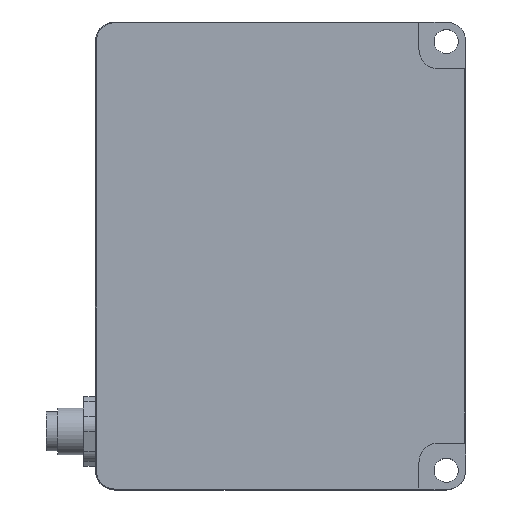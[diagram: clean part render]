
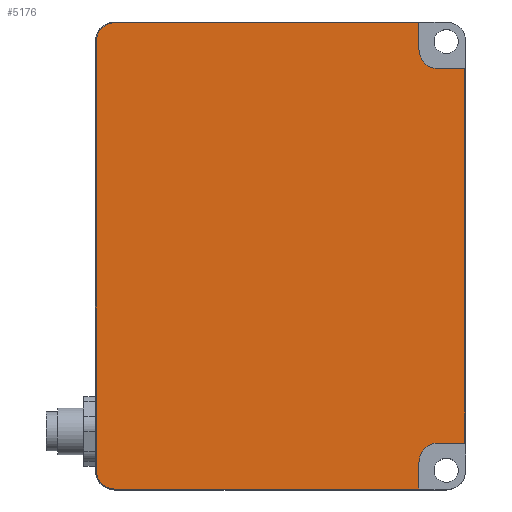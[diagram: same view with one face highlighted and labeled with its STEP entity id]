
A CAD part, top view. The second image highlights one B-rep face of the part: STEP entity #5176.
In plain terms, the highlighted planar face has unit normal (0, 0, 1) as drawn and (0, 0, -1) by its records, which use the part's own axes.
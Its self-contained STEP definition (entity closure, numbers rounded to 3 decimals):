
#5069=CARTESIAN_POINT('',(41.062,-59.309,0.0));
#5070=DIRECTION('',(0.0,0.0,1.0));
#5071=DIRECTION('',(1.0,0.0,0.0));
#5072=AXIS2_PLACEMENT_3D('',#5069,#5070,#5071);
#5073=PLANE('',#5072);
#5074=CARTESIAN_POINT('',(88.362,-107.309,0.0));
#5075=VERTEX_POINT('',#5074);
#5076=CARTESIAN_POINT('',(88.362,-11.309,0.0));
#5077=VERTEX_POINT('',#5076);
#5078=CARTESIAN_POINT('',(88.362,-107.309,0.0));
#5079=DIRECTION('',(0.0,1.0,0.0));
#5080=VECTOR('',#5079,96.0);
#5081=LINE('',#5078,#5080);
#5082=EDGE_CURVE('',#5075,#5077,#5081,.T.);
#5083=ORIENTED_EDGE('',*,*,#5082,.F.);
#5084=CARTESIAN_POINT('',(81.562,-107.309,0.0));
#5085=VERTEX_POINT('',#5084);
#5086=CARTESIAN_POINT('',(88.362,-107.309,0.0));
#5087=DIRECTION('',(-1.0,0.0,0.0));
#5088=VECTOR('',#5087,6.8);
#5089=LINE('',#5086,#5088);
#5090=EDGE_CURVE('',#5075,#5085,#5089,.T.);
#5091=ORIENTED_EDGE('',*,*,#5090,.T.);
#5092=CARTESIAN_POINT('',(76.562,-112.309,0.0));
#5093=VERTEX_POINT('',#5092);
#5094=CARTESIAN_POINT('',(81.562,-112.309,0.0));
#5095=DIRECTION('',(0.0,0.0,1.0));
#5096=DIRECTION('',(1.0,0.0,0.0));
#5097=AXIS2_PLACEMENT_3D('',#5094,#5095,#5096);
#5098=CIRCLE('',#5097,5.0);
#5099=EDGE_CURVE('',#5085,#5093,#5098,.T.);
#5100=ORIENTED_EDGE('',*,*,#5099,.T.);
#5101=CARTESIAN_POINT('',(76.562,-119.109,0.0));
#5102=VERTEX_POINT('',#5101);
#5103=CARTESIAN_POINT('',(76.562,-112.309,0.0));
#5104=DIRECTION('',(0.0,-1.0,0.0));
#5105=VECTOR('',#5104,6.8);
#5106=LINE('',#5103,#5105);
#5107=EDGE_CURVE('',#5093,#5102,#5106,.T.);
#5108=ORIENTED_EDGE('',*,*,#5107,.T.);
#5109=CARTESIAN_POINT('',(-1.438,-119.109,0.0));
#5110=VERTEX_POINT('',#5109);
#5111=CARTESIAN_POINT('',(-1.438,-119.109,0.0));
#5112=DIRECTION('',(1.0,0.0,0.0));
#5113=VECTOR('',#5112,78.);
#5114=LINE('',#5111,#5113);
#5115=EDGE_CURVE('',#5110,#5102,#5114,.T.);
#5116=ORIENTED_EDGE('',*,*,#5115,.F.);
#5117=CARTESIAN_POINT('',(-6.238,-114.309,0.0));
#5118=VERTEX_POINT('',#5117);
#5119=CARTESIAN_POINT('',(-1.438,-114.309,0.0));
#5120=DIRECTION('',(0.0,0.0,1.0));
#5121=DIRECTION('',(-1.0,0.0,0.0));
#5122=AXIS2_PLACEMENT_3D('',#5119,#5120,#5121);
#5123=CIRCLE('',#5122,4.8);
#5124=EDGE_CURVE('',#5118,#5110,#5123,.T.);
#5125=ORIENTED_EDGE('',*,*,#5124,.F.);
#5126=CARTESIAN_POINT('',(-6.238,-4.309,0.0));
#5127=VERTEX_POINT('',#5126);
#5128=CARTESIAN_POINT('',(-6.238,-4.309,0.0));
#5129=DIRECTION('',(0.0,-1.0,0.0));
#5130=VECTOR('',#5129,110.);
#5131=LINE('',#5128,#5130);
#5132=EDGE_CURVE('',#5127,#5118,#5131,.T.);
#5133=ORIENTED_EDGE('',*,*,#5132,.F.);
#5134=CARTESIAN_POINT('',(-1.438,0.491,0.0));
#5135=VERTEX_POINT('',#5134);
#5136=CARTESIAN_POINT('',(-1.438,-4.309,0.0));
#5137=DIRECTION('',(0.0,0.0,1.0));
#5138=DIRECTION('',(0.0,1.0,0.0));
#5139=AXIS2_PLACEMENT_3D('',#5136,#5137,#5138);
#5140=CIRCLE('',#5139,4.8);
#5141=EDGE_CURVE('',#5135,#5127,#5140,.T.);
#5142=ORIENTED_EDGE('',*,*,#5141,.F.);
#5143=CARTESIAN_POINT('',(76.562,0.491,0.0));
#5144=VERTEX_POINT('',#5143);
#5145=CARTESIAN_POINT('',(76.562,0.491,0.0));
#5146=DIRECTION('',(-1.0,0.0,0.0));
#5147=VECTOR('',#5146,78.);
#5148=LINE('',#5145,#5147);
#5149=EDGE_CURVE('',#5144,#5135,#5148,.T.);
#5150=ORIENTED_EDGE('',*,*,#5149,.F.);
#5151=CARTESIAN_POINT('',(76.562,-6.309,0.0));
#5152=VERTEX_POINT('',#5151);
#5153=CARTESIAN_POINT('',(76.562,0.491,0.0));
#5154=DIRECTION('',(0.0,-1.0,0.0));
#5155=VECTOR('',#5154,6.8);
#5156=LINE('',#5153,#5155);
#5157=EDGE_CURVE('',#5144,#5152,#5156,.T.);
#5158=ORIENTED_EDGE('',*,*,#5157,.T.);
#5159=CARTESIAN_POINT('',(81.562,-11.309,0.0));
#5160=VERTEX_POINT('',#5159);
#5161=CARTESIAN_POINT('',(81.562,-6.309,0.0));
#5162=DIRECTION('',(0.0,0.0,1.0));
#5163=DIRECTION('',(0.0,1.0,0.0));
#5164=AXIS2_PLACEMENT_3D('',#5161,#5162,#5163);
#5165=CIRCLE('',#5164,5.);
#5166=EDGE_CURVE('',#5152,#5160,#5165,.T.);
#5167=ORIENTED_EDGE('',*,*,#5166,.T.);
#5168=CARTESIAN_POINT('',(81.562,-11.309,0.0));
#5169=DIRECTION('',(1.0,0.0,0.0));
#5170=VECTOR('',#5169,6.8);
#5171=LINE('',#5168,#5170);
#5172=EDGE_CURVE('',#5160,#5077,#5171,.T.);
#5173=ORIENTED_EDGE('',*,*,#5172,.T.);
#5174=EDGE_LOOP('',(#5083,#5091,#5100,#5108,#5116,#5125,#5133,#5142,#5150,#5158,#5167,#5173));
#5175=FACE_OUTER_BOUND('',#5174,.T.);
#5176=ADVANCED_FACE('',(#5175),#5073,.F.);
